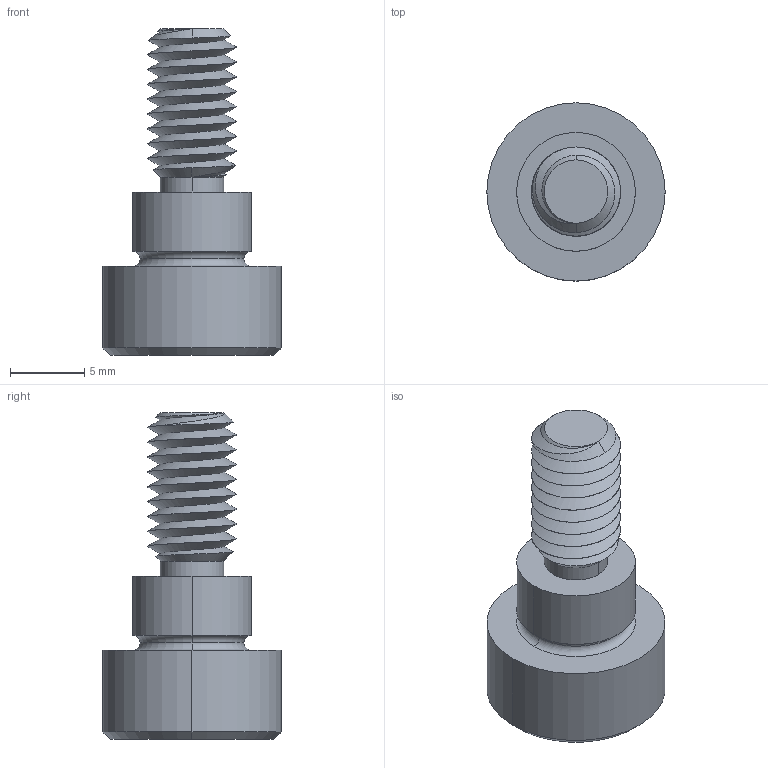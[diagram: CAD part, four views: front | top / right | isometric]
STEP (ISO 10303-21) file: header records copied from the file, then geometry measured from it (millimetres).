
FILE_DESCRIPTION (( 'STEP AP203' ), '1' );
FILE_NAME ('P0130.080-005-B2.step', '2021-11-09T21:33:20', ( '' ), ( '' ), 'SwSTEP 2.0', 'SolidWorks 2019', '' );
FILE_SCHEMA (( 'CONFIG_CONTROL_DESIGN' ));
Length unit declared in the file: millimetre
Products named in the file (1): P0130.080-005-B2
Bounding box: 12 x 12 x 22 mm (x, y, z)
Volume: 1076.5 mm3; surface area: 958.5 mm2
Topology: 1 solids, 1 shells, 60 faces, 142 edges, 85 vertices
Faces by surface type: cylinder 24, plane 16, cone 14, torus 4, bspline 2
Entity records: 4245 total; most frequent: CARTESIAN_POINT 2899, ORIENTED_EDGE 280, DIRECTION 247, EDGE_CURVE 140, AXIS2_PLACEMENT_3D 99, VERTEX_POINT 85, EDGE_LOOP 63, ADVANCED_FACE 60
